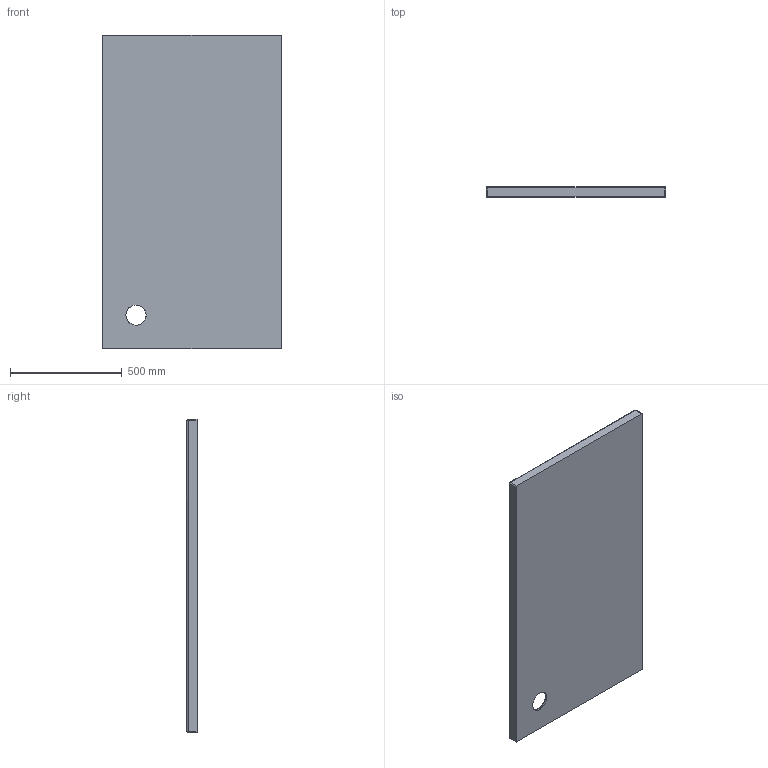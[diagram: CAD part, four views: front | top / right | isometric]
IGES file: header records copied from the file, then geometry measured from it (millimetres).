
Global section: file name: ce88fe12-632d-40c1-8075-09eb8212dbee; native system: unknown; preprocessor: unknown; author: unknown; organization: unknown; date: 20200103.082906; units: millimetre
Bounding box: 800 x 45 x 1400 mm (x, y, z)
Volume: 31417919.1 mm3; surface area: 2484658.8 mm2
Topology: 1 solids, 1 shells, 47 faces, 98 edges, 54 vertices
Faces by surface type: bspline 47
